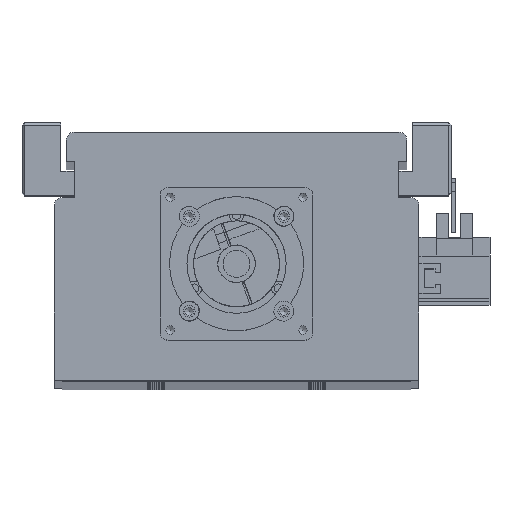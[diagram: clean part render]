
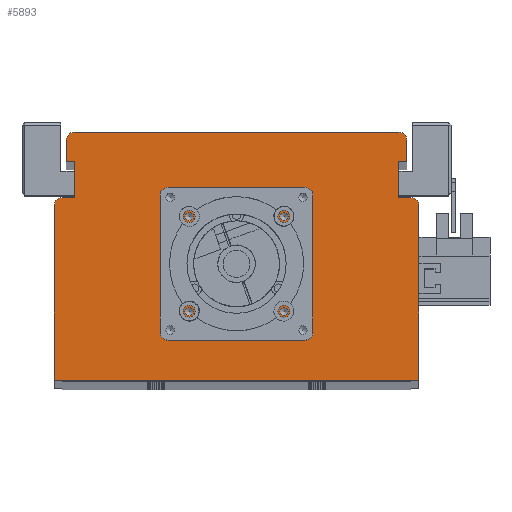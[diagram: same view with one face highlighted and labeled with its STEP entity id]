
A CAD part, top view. The second image highlights one B-rep face of the part: STEP entity #5893.
In plain terms, the highlighted planar face has unit normal (0, 0, 1).
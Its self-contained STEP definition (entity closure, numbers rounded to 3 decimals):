
#4451=CARTESIAN_POINT('',(19.321,61.5,1745.0));
#4452=VERTEX_POINT('',#4451);
#4453=CARTESIAN_POINT('',(17.7,61.5,1745.0));
#4454=DIRECTION('',(0.0,0.0,-1.0));
#4455=DIRECTION('',(1.0,0.0,0.0));
#4456=AXIS2_PLACEMENT_3D('',#4453,#4454,#4455);
#4457=CIRCLE('',#4456,1.621);
#4458=EDGE_CURVE('',#4452,#4452,#4457,.T.);
#4530=CARTESIAN_POINT('',(19.321,26.1,1745.0));
#4531=VERTEX_POINT('',#4530);
#4532=CARTESIAN_POINT('',(17.7,26.1,1745.0));
#4533=DIRECTION('',(0.0,0.0,-1.0));
#4534=DIRECTION('',(1.0,0.0,0.0));
#4535=AXIS2_PLACEMENT_3D('',#4532,#4533,#4534);
#4536=CIRCLE('',#4535,1.621);
#4537=EDGE_CURVE('',#4531,#4531,#4536,.T.);
#4609=CARTESIAN_POINT('',(-16.079,26.1,1745.0));
#4610=VERTEX_POINT('',#4609);
#4611=CARTESIAN_POINT('',(-17.7,26.1,1745.0));
#4612=DIRECTION('',(0.0,0.0,-1.0));
#4613=DIRECTION('',(1.0,0.0,0.0));
#4614=AXIS2_PLACEMENT_3D('',#4611,#4612,#4613);
#4615=CIRCLE('',#4614,1.621);
#4616=EDGE_CURVE('',#4610,#4610,#4615,.T.);
#4688=CARTESIAN_POINT('',(-16.079,61.5,1745.0));
#4689=VERTEX_POINT('',#4688);
#4690=CARTESIAN_POINT('',(-17.7,61.5,1745.0));
#4691=DIRECTION('',(0.0,0.0,-1.0));
#4692=DIRECTION('',(1.0,0.0,0.0));
#4693=AXIS2_PLACEMENT_3D('',#4690,#4691,#4692);
#4694=CIRCLE('',#4693,1.621);
#4695=EDGE_CURVE('',#4689,#4689,#4694,.T.);
#4729=CARTESIAN_POINT('',(26.5,43.8,1745.0));
#4730=VERTEX_POINT('',#4729);
#4731=CARTESIAN_POINT('',(24.5,43.8,1745.0));
#4732=DIRECTION('',(0.0,0.0,-1.0));
#4733=DIRECTION('',(1.0,0.0,0.0));
#4734=AXIS2_PLACEMENT_3D('',#4731,#4732,#4733);
#4735=CIRCLE('',#4734,2.0);
#4736=EDGE_CURVE('',#4730,#4730,#4735,.T.);
#4778=CARTESIAN_POINT('',(-22.5,43.8,1745.0));
#4779=VERTEX_POINT('',#4778);
#4780=CARTESIAN_POINT('',(-24.5,43.8,1745.0));
#4781=DIRECTION('',(0.0,0.0,-1.0));
#4782=DIRECTION('',(1.0,0.0,0.0));
#4783=AXIS2_PLACEMENT_3D('',#4780,#4781,#4782);
#4784=CIRCLE('',#4783,2.0);
#4785=EDGE_CURVE('',#4779,#4779,#4784,.T.);
#5709=CARTESIAN_POINT('',(21.05,43.8,1745.0));
#5710=VERTEX_POINT('',#5709);
#5711=CARTESIAN_POINT('',(0.0,43.8,1745.0));
#5712=DIRECTION('',(0.0,0.0,-1.0));
#5713=DIRECTION('',(-1.0,0.0,0.0));
#5714=AXIS2_PLACEMENT_3D('',#5711,#5712,#5713);
#5715=CIRCLE('',#5714,21.05);
#5716=EDGE_CURVE('',#5710,#5710,#5715,.T.);
#5733=CARTESIAN_POINT('',(0.,29.533,1745.0));
#5734=DIRECTION('',(0.0,0.0,1.0));
#5735=DIRECTION('',(1.0,0.0,0.0));
#5736=AXIS2_PLACEMENT_3D('',#5733,#5734,#5735);
#5737=PLANE('',#5736);
#5738=CARTESIAN_POINT('',(-65.,68.5,1745.0));
#5739=VERTEX_POINT('',#5738);
#5740=CARTESIAN_POINT('',(-60.5,68.5,1745.));
#5741=VERTEX_POINT('',#5740);
#5742=CARTESIAN_POINT('',(-65.,68.5,1745.0));
#5743=DIRECTION('',(1.0,0.0,0.0));
#5744=VECTOR('',#5743,4.5);
#5745=LINE('',#5742,#5744);
#5746=EDGE_CURVE('',#5739,#5741,#5745,.T.);
#5747=ORIENTED_EDGE('',*,*,#5746,.F.);
#5748=CARTESIAN_POINT('',(-68.,65.5,1745.0));
#5749=VERTEX_POINT('',#5748);
#5750=CARTESIAN_POINT('',(-65.,65.5,1745.0));
#5751=DIRECTION('',(0.0,0.0,-1.0));
#5752=DIRECTION('',(0.0,1.0,0.0));
#5753=AXIS2_PLACEMENT_3D('',#5750,#5751,#5752);
#5754=CIRCLE('',#5753,3.);
#5755=EDGE_CURVE('',#5749,#5739,#5754,.T.);
#5756=ORIENTED_EDGE('',*,*,#5755,.F.);
#5757=CARTESIAN_POINT('',(-68.0,0.5,1745.0));
#5758=VERTEX_POINT('',#5757);
#5759=CARTESIAN_POINT('',(-68.0,0.5,1745.0));
#5760=DIRECTION('',(0.0,1.0,0.0));
#5761=VECTOR('',#5760,65.0);
#5762=LINE('',#5759,#5761);
#5763=EDGE_CURVE('',#5758,#5749,#5762,.T.);
#5764=ORIENTED_EDGE('',*,*,#5763,.F.);
#5765=CARTESIAN_POINT('',(68.0,0.5,1745.0));
#5766=VERTEX_POINT('',#5765);
#5767=CARTESIAN_POINT('',(68.0,0.5,1745.0));
#5768=DIRECTION('',(-1.0,0.0,0.0));
#5769=VECTOR('',#5768,136.0);
#5770=LINE('',#5767,#5769);
#5771=EDGE_CURVE('',#5766,#5758,#5770,.T.);
#5772=ORIENTED_EDGE('',*,*,#5771,.F.);
#5773=CARTESIAN_POINT('',(68.0,65.5,1745.0));
#5774=VERTEX_POINT('',#5773);
#5775=CARTESIAN_POINT('',(68.0,65.5,1745.0));
#5776=DIRECTION('',(0.0,-1.0,0.0));
#5777=VECTOR('',#5776,65.0);
#5778=LINE('',#5775,#5777);
#5779=EDGE_CURVE('',#5774,#5766,#5778,.T.);
#5780=ORIENTED_EDGE('',*,*,#5779,.F.);
#5781=CARTESIAN_POINT('',(65.,68.5,1745.0));
#5782=VERTEX_POINT('',#5781);
#5783=CARTESIAN_POINT('',(65.,65.5,1745.0));
#5784=DIRECTION('',(0.0,0.0,-1.0));
#5785=DIRECTION('',(1.0,0.0,0.0));
#5786=AXIS2_PLACEMENT_3D('',#5783,#5784,#5785);
#5787=CIRCLE('',#5786,3.);
#5788=EDGE_CURVE('',#5782,#5774,#5787,.T.);
#5789=ORIENTED_EDGE('',*,*,#5788,.F.);
#5790=CARTESIAN_POINT('',(60.5,68.5,1745.));
#5791=VERTEX_POINT('',#5790);
#5792=CARTESIAN_POINT('',(60.5,68.5,1745.));
#5793=DIRECTION('',(1.0,0.0,0.0));
#5794=VECTOR('',#5793,4.5);
#5795=LINE('',#5792,#5794);
#5796=EDGE_CURVE('',#5791,#5782,#5795,.T.);
#5797=ORIENTED_EDGE('',*,*,#5796,.F.);
#5798=CARTESIAN_POINT('',(60.5,82.,1745.));
#5799=VERTEX_POINT('',#5798);
#5800=CARTESIAN_POINT('',(60.5,82.,1745.));
#5801=DIRECTION('',(0.0,-1.0,0.0));
#5802=VECTOR('',#5801,13.5);
#5803=LINE('',#5800,#5802);
#5804=EDGE_CURVE('',#5799,#5791,#5803,.T.);
#5805=ORIENTED_EDGE('',*,*,#5804,.F.);
#5806=CARTESIAN_POINT('',(63.5,82.,1745.));
#5807=VERTEX_POINT('',#5806);
#5808=CARTESIAN_POINT('',(63.5,82.,1745.));
#5809=DIRECTION('',(-1.0,0.0,0.0));
#5810=VECTOR('',#5809,3.0);
#5811=LINE('',#5808,#5810);
#5812=EDGE_CURVE('',#5807,#5799,#5811,.T.);
#5813=ORIENTED_EDGE('',*,*,#5812,.F.);
#5814=CARTESIAN_POINT('',(63.5,90.0,1745.));
#5815=VERTEX_POINT('',#5814);
#5816=CARTESIAN_POINT('',(63.5,90.0,1745.));
#5817=DIRECTION('',(0.0,-1.0,0.0));
#5818=VECTOR('',#5817,8.);
#5819=LINE('',#5816,#5818);
#5820=EDGE_CURVE('',#5815,#5807,#5819,.T.);
#5821=ORIENTED_EDGE('',*,*,#5820,.F.);
#5822=CARTESIAN_POINT('',(60.5,93.,1745.));
#5823=VERTEX_POINT('',#5822);
#5824=CARTESIAN_POINT('',(60.5,90.0,1745.0));
#5825=DIRECTION('',(0.0,0.0,-1.0));
#5826=DIRECTION('',(1.0,0.0,0.0));
#5827=AXIS2_PLACEMENT_3D('',#5824,#5825,#5826);
#5828=CIRCLE('',#5827,3.);
#5829=EDGE_CURVE('',#5823,#5815,#5828,.T.);
#5830=ORIENTED_EDGE('',*,*,#5829,.F.);
#5831=CARTESIAN_POINT('',(-60.5,93.0,1745.));
#5832=VERTEX_POINT('',#5831);
#5833=CARTESIAN_POINT('',(-60.5,93.0,1745.));
#5834=DIRECTION('',(1.0,0.0,0.0));
#5835=VECTOR('',#5834,121.0);
#5836=LINE('',#5833,#5835);
#5837=EDGE_CURVE('',#5832,#5823,#5836,.T.);
#5838=ORIENTED_EDGE('',*,*,#5837,.F.);
#5839=CARTESIAN_POINT('',(-63.5,90.0,1745.));
#5840=VERTEX_POINT('',#5839);
#5841=CARTESIAN_POINT('',(-60.5,90.0,1745.0));
#5842=DIRECTION('',(0.0,0.0,-1.0));
#5843=DIRECTION('',(0.0,1.0,0.0));
#5844=AXIS2_PLACEMENT_3D('',#5841,#5842,#5843);
#5845=CIRCLE('',#5844,3.);
#5846=EDGE_CURVE('',#5840,#5832,#5845,.T.);
#5847=ORIENTED_EDGE('',*,*,#5846,.F.);
#5848=CARTESIAN_POINT('',(-63.5,82.,1745.));
#5849=VERTEX_POINT('',#5848);
#5850=CARTESIAN_POINT('',(-63.5,82.,1745.));
#5851=DIRECTION('',(0.0,1.0,0.0));
#5852=VECTOR('',#5851,8.);
#5853=LINE('',#5850,#5852);
#5854=EDGE_CURVE('',#5849,#5840,#5853,.T.);
#5855=ORIENTED_EDGE('',*,*,#5854,.F.);
#5856=CARTESIAN_POINT('',(-60.5,82.,1745.));
#5857=VERTEX_POINT('',#5856);
#5858=CARTESIAN_POINT('',(-60.5,82.,1745.));
#5859=DIRECTION('',(-1.0,0.0,0.0));
#5860=VECTOR('',#5859,3.);
#5861=LINE('',#5858,#5860);
#5862=EDGE_CURVE('',#5857,#5849,#5861,.T.);
#5863=ORIENTED_EDGE('',*,*,#5862,.F.);
#5864=CARTESIAN_POINT('',(-60.5,68.5,1745.));
#5865=DIRECTION('',(0.0,1.0,0.0));
#5866=VECTOR('',#5865,13.5);
#5867=LINE('',#5864,#5866);
#5868=EDGE_CURVE('',#5741,#5857,#5867,.T.);
#5869=ORIENTED_EDGE('',*,*,#5868,.F.);
#5870=EDGE_LOOP('',(#5747,#5756,#5764,#5772,#5780,#5789,#5797,#5805,#5813,#5821,#5830,#5838,#5847,#5855,#5863,#5869));
#5871=FACE_OUTER_BOUND('',#5870,.T.);
#5872=ORIENTED_EDGE('',*,*,#4458,.T.);
#5873=EDGE_LOOP('',(#5872));
#5874=FACE_BOUND('',#5873,.T.);
#5875=ORIENTED_EDGE('',*,*,#4537,.T.);
#5876=EDGE_LOOP('',(#5875));
#5877=FACE_BOUND('',#5876,.T.);
#5878=ORIENTED_EDGE('',*,*,#4616,.T.);
#5879=EDGE_LOOP('',(#5878));
#5880=FACE_BOUND('',#5879,.T.);
#5881=ORIENTED_EDGE('',*,*,#4695,.T.);
#5882=EDGE_LOOP('',(#5881));
#5883=FACE_BOUND('',#5882,.T.);
#5884=ORIENTED_EDGE('',*,*,#4736,.T.);
#5885=EDGE_LOOP('',(#5884));
#5886=FACE_BOUND('',#5885,.T.);
#5887=ORIENTED_EDGE('',*,*,#4785,.T.);
#5888=EDGE_LOOP('',(#5887));
#5889=FACE_BOUND('',#5888,.T.);
#5890=ORIENTED_EDGE('',*,*,#5716,.T.);
#5891=EDGE_LOOP('',(#5890));
#5892=FACE_BOUND('',#5891,.T.);
#5893=ADVANCED_FACE('',(#5871,#5874,#5877,#5880,#5883,#5886,#5889,#5892),#5737,.T.);
